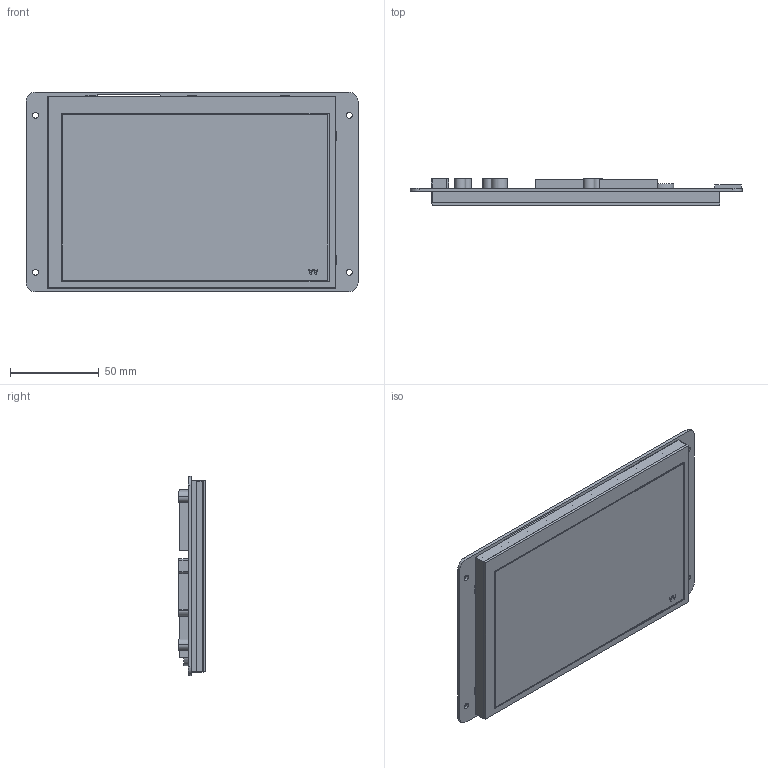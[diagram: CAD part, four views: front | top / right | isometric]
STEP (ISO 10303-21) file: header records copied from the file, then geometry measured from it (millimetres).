
FILE_DESCRIPTION((''),'2;1');
FILE_NAME('DMG12800K070-03WTC_ASM','2022-02-22T',('Administrator'),(''),'PRO/ENGINEER BY PARAMETRIC TECHNOLOGY CORPORATION, 2014320','PRO/ENGINEER BY PARAMETRIC TECHNOLOGY CORPORATION, 2014320','');
FILE_SCHEMA(('CONFIG_CONTROL_DESIGN','SHAPE_APPEARANCE_LAYERS_GROUPS'));
Length unit declared in the file: millimetre
Products named in the file (5): TK070024; TM070JDHG30-00; PCB; YF07057; DMG12800K070-03WTC_ASM
Assembly tree (4 placements, depth 2):
  DMG12800K070-03WTC_ASM
    TK070024
    TM070JDHG30-00
    PCB
    YF07057
Bounding box: 186.94 x 15.4 x 112.14 mm (x, y, z)
Volume: 127734.8 mm3; surface area: 131192.1 mm2
Topology: 4 solids, 4 shells, 219 faces, 552 edges, 368 vertices
Faces by surface type: plane 187, cylinder 32
Entity records: 6808 total; most frequent: CARTESIAN_POINT 1148, ORIENTED_EDGE 1104, DIRECTION 1072, EDGE_CURVE 552, VECTOR 488, LINE 488, VERTEX_POINT 368, AXIS2_PLACEMENT_3D 292
